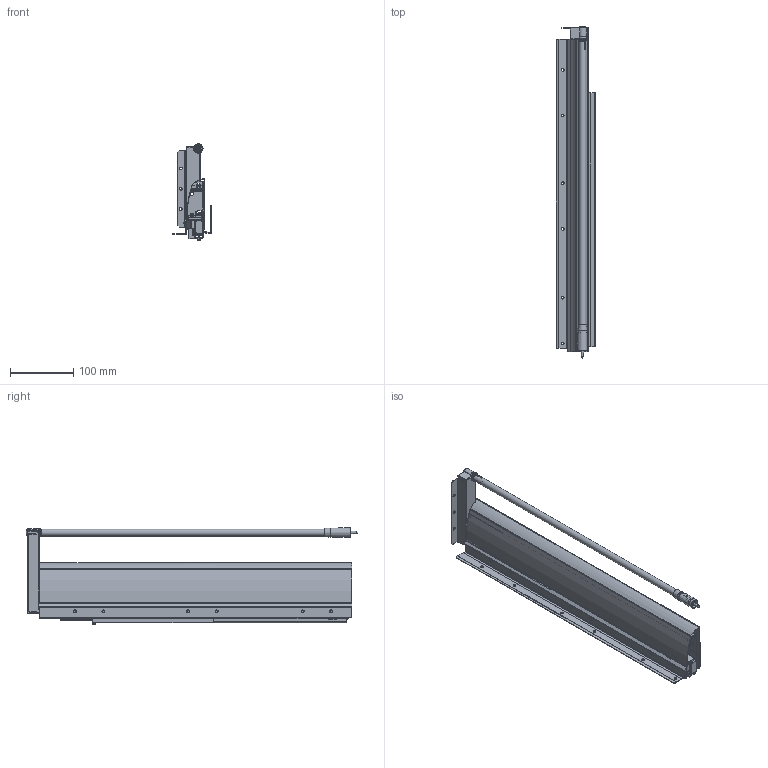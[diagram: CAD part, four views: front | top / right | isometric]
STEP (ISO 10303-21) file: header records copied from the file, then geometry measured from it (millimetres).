
FILE_DESCRIPTION( ( 'Unknown' ), '1' );
FILE_NAME( 'W:/研發專區/RD19克怡/文件申請/A58-3D/轉出/A5808.stp', 'Unknown', ( 'Unknown' ), ( 'Unknown' ), 'PSStep 14.0', 'Unknown', ' ' );
FILE_SCHEMA( ( 'AUTOMOTIVE_DESIGN { 1 0 10303 214 1 1 1 1 }' ) );
Length unit declared in the file: millimetre
Products named in the file (21): W-981背板組件R; P10-387-0; W-858-A-1-00; 側板組件+W-981; W-856-E-0; W-862-E-1-00; P10-661-0-00; W-980-E\X2\53EF8ABF5F0F524D677F9023687\X0\; 後板__; ___; __▼敹急_; __▼霅_; W-868-E-0_0; A5806; \X2\4E0A6846524D84C\X0\; 上框-new; 中框-new; 下框-new; \X2\64A5687\X0\; P10-939; Assem1
Assembly tree (20 placements, depth 4):
  Assem1
    W-980-E\X2\53EF8ABF5F0F524D677F9023687\X0\
      後板__
      ___
      __▼敹急_
      __▼霅_
      W-868-E-0_0
    側板組件+W-981
      W-856-E-0
      W-862-E-1-00
      P10-661-0-00
      W-981背板組件R
        P10-387-0
        W-858-A-1-00
    A5806
      \X2\4E0A6846524D84C\X0\
      上框-new
      中框-new
      下框-new
      \X2\64A5687\X0\
      P10-939
Bounding box: 61.87 x 523.21 x 151.64 mm (x, y, z)
Volume: 308049.3 mm3; surface area: 575334.4 mm2
Topology: 16 solids, 16 shells, 1776 faces, 4646 edges, 2917 vertices
Faces by surface type: plane 804, cylinder 618, bspline 169, torus 153, cone 24, sphere 8
Full cylindrical faces by diameter (mm): 2.5 x2, 3.5 x6, 4 x1, 4.2 x9, 4.5 x12, 6.1 x6, 6.4 x24, 7 x3, 8 x2, 8.3 x2, 8.5 x1, 8.6 x2, 11 x1, 11.2 x1, 11.9 x1, 12 x1, 13.5 x1
Entity records: 73915 total; most frequent: CARTESIAN_POINT 16988, ORIENTED_EDGE 8846, DIRECTION 8662, EDGE_CURVE 4423, AXIS2_PLACEMENT_3D 3038, VERTEX_POINT 2859, LINE 2586, VECTOR 2586
